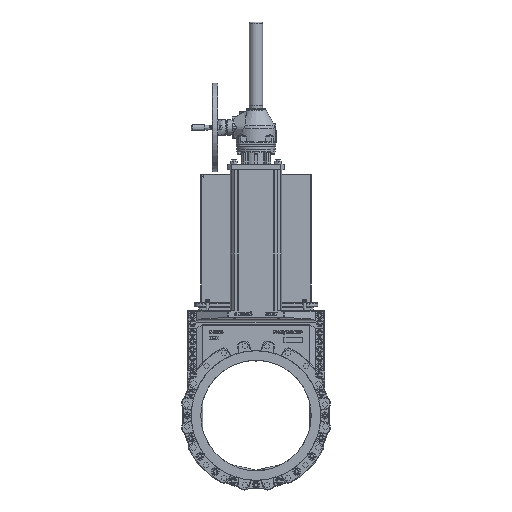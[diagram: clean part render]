
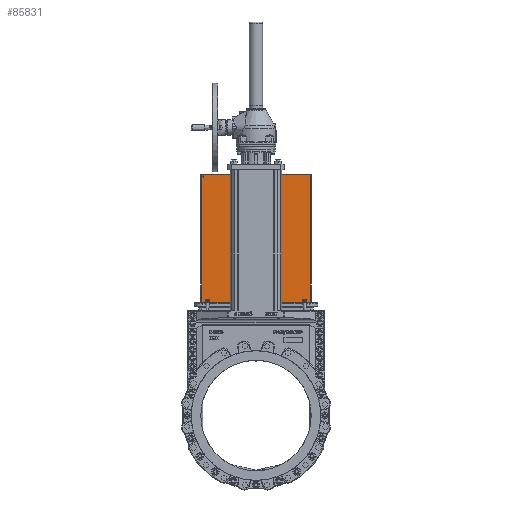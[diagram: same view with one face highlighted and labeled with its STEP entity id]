
A CAD part, left-side view. The second image highlights one B-rep face of the part: STEP entity #85831.
In plain terms, the highlighted planar face has unit normal (-1, 0, 0).
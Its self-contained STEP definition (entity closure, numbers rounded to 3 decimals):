
#3256=FACE_BOUND('',#15018,.T.);
#3257=FACE_BOUND('',#15019,.T.);
#3258=FACE_BOUND('',#15020,.T.);
#3259=FACE_BOUND('',#15021,.T.);
#3260=FACE_BOUND('',#15022,.T.);
#3261=FACE_BOUND('',#15023,.T.);
#9755=FACE_OUTER_BOUND('',#15017,.T.);
#15017=EDGE_LOOP('',(#71737,#71738,#71739,#71740,#71741,#71742,#71743,#71744,
#71745,#71746));
#15018=EDGE_LOOP('',(#71747));
#15019=EDGE_LOOP('',(#71748));
#15020=EDGE_LOOP('',(#71749,#71750,#71751,#71752));
#15021=EDGE_LOOP('',(#71753));
#15022=EDGE_LOOP('',(#71754,#71755,#71756,#71757));
#15023=EDGE_LOOP('',(#71758));
#17472=CIRCLE('',#90252,20.);
#17476=CIRCLE('',#90257,14.5);
#17478=CIRCLE('',#90259,14.5);
#17480=CIRCLE('',#90262,3.5);
#17484=CIRCLE('',#90267,14.5);
#17486=CIRCLE('',#90269,14.5);
#18728=CIRCLE('',#93021,15.);
#18771=CIRCLE('',#93120,15.);
#18775=CIRCLE('',#93126,15.);
#18777=CIRCLE('',#93128,15.);
#18778=CIRCLE('',#93131,15.);
#18779=CIRCLE('',#93132,15.);
#19231=LINE('',#115111,#25124);
#19247=LINE('',#115229,#25140);
#19257=LINE('',#115250,#25150);
#19258=LINE('',#115254,#25151);
#19274=LINE('',#115372,#25167);
#19284=LINE('',#115393,#25177);
#22916=LINE('',#158176,#28809);
#22929=LINE('',#158357,#28822);
#23089=LINE('',#159348,#28982);
#24154=LINE('',#166624,#30047);
#25124=VECTOR('',#94094,10.);
#25140=VECTOR('',#94184,10.);
#25150=VECTOR('',#94196,10.);
#25151=VECTOR('',#94199,10.);
#25167=VECTOR('',#94289,10.);
#25177=VECTOR('',#94301,10.);
#28809=VECTOR('',#105213,10.);
#28822=VECTOR('',#105294,10.);
#28982=VECTOR('',#105882,10.);
#30047=VECTOR('',#111239,10.);
#31017=VERTEX_POINT('',#115109);
#31018=VERTEX_POINT('',#115110);
#31047=VERTEX_POINT('',#115228);
#31057=VERTEX_POINT('',#115248);
#31058=VERTEX_POINT('',#115252);
#31059=VERTEX_POINT('',#115253);
#31088=VERTEX_POINT('',#115371);
#31098=VERTEX_POINT('',#115391);
#35625=VERTEX_POINT('',#158174);
#35635=VERTEX_POINT('',#158216);
#35639=VERTEX_POINT('',#158226);
#35640=VERTEX_POINT('',#158228);
#35641=VERTEX_POINT('',#158230);
#35643=VERTEX_POINT('',#158236);
#35647=VERTEX_POINT('',#158246);
#35648=VERTEX_POINT('',#158248);
#35649=VERTEX_POINT('',#158250);
#35662=VERTEX_POINT('',#158353);
#37782=VERTEX_POINT('',#171546);
#37843=VERTEX_POINT('',#171842);
#37847=VERTEX_POINT('',#171853);
#37848=VERTEX_POINT('',#171860);
#38869=EDGE_CURVE('',#31017,#31018,#19231,.T.);
#38915=EDGE_CURVE('',#31047,#31017,#19247,.T.);
#38926=EDGE_CURVE('',#31018,#31057,#19257,.T.);
#38927=EDGE_CURVE('',#31058,#31059,#19258,.T.);
#38973=EDGE_CURVE('',#31088,#31058,#19274,.T.);
#38984=EDGE_CURVE('',#31059,#31098,#19284,.T.);
#45672=EDGE_CURVE('',#35625,#31057,#22916,.T.);
#45684=EDGE_CURVE('',#35635,#35635,#17472,.T.);
#45689=EDGE_CURVE('',#35640,#35639,#17476,.T.);
#45691=EDGE_CURVE('',#35639,#35641,#17478,.T.);
#45694=EDGE_CURVE('',#35643,#35643,#17480,.T.);
#45699=EDGE_CURVE('',#35648,#35647,#17484,.T.);
#45701=EDGE_CURVE('',#35647,#35649,#17486,.T.);
#45721=EDGE_CURVE('',#31088,#35662,#22929,.T.);
#46004=EDGE_CURVE('',#35625,#35662,#23089,.T.);
#48728=EDGE_CURVE('',#31098,#31047,#24154,.T.);
#49184=EDGE_CURVE('',#37782,#37782,#18728,.T.);
#49291=EDGE_CURVE('',#37843,#37843,#18771,.T.);
#49296=EDGE_CURVE('',#35649,#37847,#18775,.T.);
#49298=EDGE_CURVE('',#37847,#35648,#18777,.T.);
#49299=EDGE_CURVE('',#35641,#37848,#18778,.T.);
#49300=EDGE_CURVE('',#37848,#35640,#18779,.T.);
#71737=ORIENTED_EDGE('',*,*,#46004,.T.);
#71738=ORIENTED_EDGE('',*,*,#45721,.F.);
#71739=ORIENTED_EDGE('',*,*,#38973,.T.);
#71740=ORIENTED_EDGE('',*,*,#38927,.T.);
#71741=ORIENTED_EDGE('',*,*,#38984,.T.);
#71742=ORIENTED_EDGE('',*,*,#48728,.T.);
#71743=ORIENTED_EDGE('',*,*,#38915,.T.);
#71744=ORIENTED_EDGE('',*,*,#38869,.T.);
#71745=ORIENTED_EDGE('',*,*,#38926,.T.);
#71746=ORIENTED_EDGE('',*,*,#45672,.F.);
#71747=ORIENTED_EDGE('',*,*,#49291,.T.);
#71748=ORIENTED_EDGE('',*,*,#49184,.T.);
#71749=ORIENTED_EDGE('',*,*,#49296,.T.);
#71750=ORIENTED_EDGE('',*,*,#49298,.T.);
#71751=ORIENTED_EDGE('',*,*,#45699,.T.);
#71752=ORIENTED_EDGE('',*,*,#45701,.T.);
#71753=ORIENTED_EDGE('',*,*,#45694,.T.);
#71754=ORIENTED_EDGE('',*,*,#49299,.T.);
#71755=ORIENTED_EDGE('',*,*,#49300,.T.);
#71756=ORIENTED_EDGE('',*,*,#45689,.T.);
#71757=ORIENTED_EDGE('',*,*,#45691,.T.);
#71758=ORIENTED_EDGE('',*,*,#45684,.T.);
#77136=PLANE('',#93130);
#85831=ADVANCED_FACE('',(#9755,#3256,#3257,#3258,#3259,#3260,#3261),#77136,
 .F.);
#90252=AXIS2_PLACEMENT_3D('',#158218,#105226,#105227);
#90257=AXIS2_PLACEMENT_3D('',#158229,#105237,#105238);
#90259=AXIS2_PLACEMENT_3D('',#158232,#105241,#105242);
#90262=AXIS2_PLACEMENT_3D('',#158238,#105248,#105249);
#90267=AXIS2_PLACEMENT_3D('',#158249,#105259,#105260);
#90269=AXIS2_PLACEMENT_3D('',#158252,#105263,#105264);
#93021=AXIS2_PLACEMENT_3D('',#171548,#112162,#112163);
#93120=AXIS2_PLACEMENT_3D('',#171844,#112388,#112389);
#93126=AXIS2_PLACEMENT_3D('',#171855,#112401,#112402);
#93128=AXIS2_PLACEMENT_3D('',#171857,#112405,#112406);
#93130=AXIS2_PLACEMENT_3D('',#171859,#112409,#112410);
#93131=AXIS2_PLACEMENT_3D('',#171861,#112411,#112412);
#93132=AXIS2_PLACEMENT_3D('',#171862,#112413,#112414);
#94094=DIRECTION('',(0.,1.,0.));
#94184=DIRECTION('',(0.,1.,0.));
#94196=DIRECTION('',(0.,1.,0.));
#94199=DIRECTION('',(0.,1.,0.));
#94289=DIRECTION('',(0.,1.,0.));
#94301=DIRECTION('',(0.,1.,0.));
#105213=DIRECTION('',(0.,0.,1.));
#105226=DIRECTION('center_axis',(1.,0.,0.));
#105227=DIRECTION('ref_axis',(0.,-1.,0.));
#105237=DIRECTION('center_axis',(1.,0.,0.));
#105238=DIRECTION('ref_axis',(0.,-1.,0.));
#105241=DIRECTION('center_axis',(1.,0.,0.));
#105242=DIRECTION('ref_axis',(0.,-1.,0.));
#105248=DIRECTION('center_axis',(1.,0.,0.));
#105249=DIRECTION('ref_axis',(0.,-1.,0.));
#105259=DIRECTION('center_axis',(1.,0.,0.));
#105260=DIRECTION('ref_axis',(0.,-1.,0.));
#105263=DIRECTION('center_axis',(1.,0.,0.));
#105264=DIRECTION('ref_axis',(0.,-1.,0.));
#105294=DIRECTION('',(0.,0.,-1.));
#105882=DIRECTION('',(0.,-1.,0.));
#111239=DIRECTION('',(0.,1.,0.));
#112162=DIRECTION('center_axis',(1.,0.,0.));
#112163=DIRECTION('ref_axis',(0.,1.,0.));
#112388=DIRECTION('center_axis',(1.,0.,0.));
#112389=DIRECTION('ref_axis',(0.,1.,0.));
#112401=DIRECTION('center_axis',(1.,0.,0.));
#112402=DIRECTION('ref_axis',(0.,1.,0.));
#112405=DIRECTION('center_axis',(1.,0.,0.));
#112406=DIRECTION('ref_axis',(0.,1.,0.));
#112409=DIRECTION('center_axis',(1.,0.,0.));
#112410=DIRECTION('ref_axis',(0.,1.,0.));
#112411=DIRECTION('center_axis',(1.,0.,0.));
#112412=DIRECTION('ref_axis',(0.,1.,0.));
#112413=DIRECTION('center_axis',(1.,0.,0.));
#112414=DIRECTION('ref_axis',(0.,1.,0.));
#115109=CARTESIAN_POINT('',(-7.5,72.216,1090.5));
#115110=CARTESIAN_POINT('',(-7.5,77.784,1090.5));
#115111=CARTESIAN_POINT('',(-7.5,-249.,1090.5));
#115228=CARTESIAN_POINT('',(-7.5,27.042,1090.5));
#115229=CARTESIAN_POINT('',(-7.5,-249.,1090.5));
#115248=CARTESIAN_POINT('',(-7.5,247.,1090.5));
#115250=CARTESIAN_POINT('',(-7.5,-249.,1090.5));
#115252=CARTESIAN_POINT('',(-7.5,-77.784,1090.5));
#115253=CARTESIAN_POINT('',(-7.5,-72.216,1090.5));
#115254=CARTESIAN_POINT('',(-7.5,-249.,1090.5));
#115371=CARTESIAN_POINT('',(-7.5,-247.,1090.5));
#115372=CARTESIAN_POINT('',(-7.5,-249.,1090.5));
#115391=CARTESIAN_POINT('',(-7.5,-27.042,1090.5));
#115393=CARTESIAN_POINT('',(-7.5,-249.,1090.5));
#158174=CARTESIAN_POINT('',(-7.5,247.,472.5));
#158176=CARTESIAN_POINT('',(-7.5,247.,580.789));
#158216=CARTESIAN_POINT('',(-7.5,20.,1055.5));
#158218=CARTESIAN_POINT('Origin',(-7.5,0.,1055.5));
#158226=CARTESIAN_POINT('',(-7.5,-30.5,1015.5));
#158228=CARTESIAN_POINT('',(-7.5,-58.218,1021.461));
#158229=CARTESIAN_POINT('Origin',(-7.5,-45.,1015.5));
#158230=CARTESIAN_POINT('',(-7.5,-49.914,1029.142));
#158232=CARTESIAN_POINT('Origin',(-7.5,-45.,1015.5));
#158236=CARTESIAN_POINT('',(-7.5,242.5,1082.5));
#158238=CARTESIAN_POINT('Origin',(-7.5,239.,1082.5));
#158246=CARTESIAN_POINT('',(-7.5,59.5,1015.5));
#158248=CARTESIAN_POINT('',(-7.5,49.914,1029.142));
#158249=CARTESIAN_POINT('Origin',(-7.5,45.,1015.5));
#158250=CARTESIAN_POINT('',(-7.5,58.218,1021.461));
#158252=CARTESIAN_POINT('Origin',(-7.5,45.,1015.5));
#158353=CARTESIAN_POINT('',(-7.5,-247.,472.5));
#158357=CARTESIAN_POINT('',(-7.5,-247.,912.541));
#159348=CARTESIAN_POINT('',(-7.5,0.,472.5));
#166624=CARTESIAN_POINT('',(-7.5,-249.,1090.5));
#171546=CARTESIAN_POINT('',(-7.5,48.5,1070.5));
#171548=CARTESIAN_POINT('Origin',(-7.5,63.5,1070.5));
#171842=CARTESIAN_POINT('',(-7.5,-78.5,1070.5));
#171844=CARTESIAN_POINT('Origin',(-7.5,-63.5,1070.5));
#171853=CARTESIAN_POINT('',(-7.5,48.5,1035.5));
#171855=CARTESIAN_POINT('Origin',(-7.5,63.5,1035.5));
#171857=CARTESIAN_POINT('Origin',(-7.5,63.5,1035.5));
#171859=CARTESIAN_POINT('Origin',(-7.5,0.,734.582));
#171860=CARTESIAN_POINT('',(-7.5,-78.5,1035.5));
#171861=CARTESIAN_POINT('Origin',(-7.5,-63.5,1035.5));
#171862=CARTESIAN_POINT('Origin',(-7.5,-63.5,1035.5));
